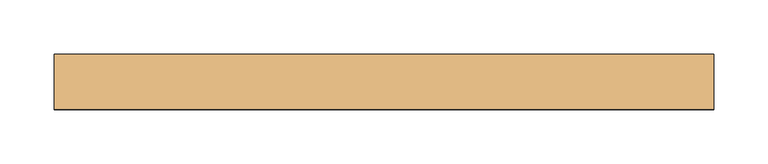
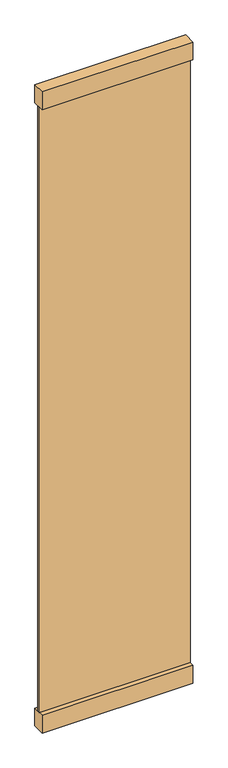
"""IFC4 building model written with IfcOpenShell, lengths in millimetres: door geometry, Planitar - Swap_Full Glass_Panel_D2 : Planitar - Swap_Full Glass_Panel_D2."""

from ifc_helpers import new_model, si_unit, frame, origin, origin_with_axes, place, context, project, spatial, polyline, outline, extrude, source, transform, mapped, element, save


def door_71ea24f5(model_context):
    return source(origin(), model_context, "Body", "SweptSolid", [
        extrude(outline(polyline([(304.8, 25.4), (304.8, -25.4), (-304.8, -25.4), (-304.8, 25.4), (304.8, 25.4)])), origin_with_axes(), (0.0, 0.0, 1.0), 76.2),
        extrude(outline(polyline([(304.8, 25.4), (304.8, -25.4), (-304.8, -25.4), (-304.8, 25.4), (304.8, 25.4)])), frame((0.0, 0.0, 2667.0), z_axis=(0.0, 0.0, 1.0), x_axis=(1.0, 0.0, 0.0)), (0.0, 0.0, 1.0), 76.2),
        extrude(outline(polyline([(304.8, 6.35), (304.8, -6.35), (-304.8, -6.35), (-304.8, 6.35), (304.8, 6.35)])), frame((0.0, 0.0, 76.2), z_axis=(0.0, 0.0, 1.0), x_axis=(1.0, 0.0, 0.0)), (0.0, 0.0, 1.0), 2590.8),
    ])


if __name__ == "__main__":
    model = new_model("IFC4")
    model_context = context("Model", 3, world=origin())
    ifc_project = project(units=[si_unit("LENGTHUNIT", "METRE", prefix="MILLI")], contexts=[model_context])
    site = spatial("IfcSite", under=ifc_project)
    building = spatial("IfcBuilding", under=site)
    placement = place(None, origin())
    door_shape = door_71ea24f5(model_context)
    element("IfcDoor", 1, ObjectType="Planitar - Swap_Full Glass_Panel_D2 : Planitar - Swap_Full Glass_Panel_D2", at=placement, inside=building, context=model_context, shape_type="MappedRepresentation", body=[
        mapped(door_shape, transform((0.0, 0.0, 0.0), x_axis=(1.0, 0.0, 0.0), y_axis=(0.0, 1.0, 0.0), z_axis=(0.0, 0.0, 1.0))),
    ])
    save(model, "model.ifc")
